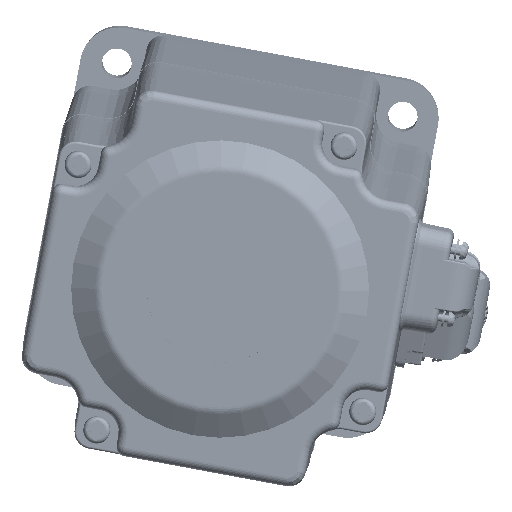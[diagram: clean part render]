
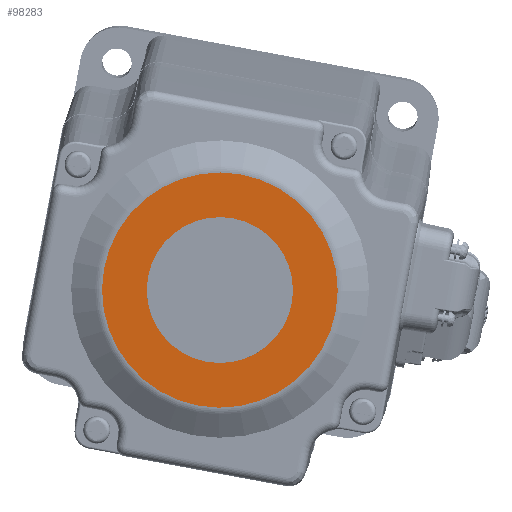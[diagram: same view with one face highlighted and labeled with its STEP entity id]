
A CAD part, top view. The second image highlights one B-rep face of the part: STEP entity #98283.
In plain terms, the highlighted planar face has unit normal (-0.015, -0.066, 0.998).
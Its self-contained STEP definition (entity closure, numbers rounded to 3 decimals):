
#31209=CARTESIAN_POINT('',(35.98,10.496,163.879));
#31210=DIRECTION('',(0.015,0.066,-0.998));
#31211=DIRECTION('',(-0.182,-0.981,-0.067));
#31212=AXIS2_PLACEMENT_3D('',#31209,#31210,#31211);
#31214=CARTESIAN_POINT('',(35.98,10.496,163.879));
#31215=DIRECTION('',(0.015,0.066,-0.998));
#31216=DIRECTION('',(0.182,0.981,0.067));
#31217=AXIS2_PLACEMENT_3D('',#31214,#31215,#31216);
#31219=CARTESIAN_POINT('',(35.98,10.496,163.879));
#31220=DIRECTION('',(-0.015,-0.066,0.998));
#31221=DIRECTION('',(-0.182,-0.981,-0.067));
#31222=AXIS2_PLACEMENT_3D('',#31219,#31220,#31221);
#31224=CARTESIAN_POINT('',(35.98,10.496,163.879));
#31225=DIRECTION('',(-0.015,-0.066,0.998));
#31226=DIRECTION('',(0.182,0.981,0.067));
#31227=AXIS2_PLACEMENT_3D('',#31224,#31225,#31226);
#50403=CARTESIAN_POINT('',(31.29,-14.803,
162.143));
#50404=CARTESIAN_POINT('',(40.67,35.795,165.616));
#50405=VERTEX_POINT('',#50403);
#50406=VERTEX_POINT('',#50404);
#50407=CARTESIAN_POINT('',(33.07,-5.2,
162.802));
#50408=CARTESIAN_POINT('',(38.889,26.192,164.957));
#50409=VERTEX_POINT('',#50407);
#50410=VERTEX_POINT('',#50408);
#98267=CARTESIAN_POINT('',(35.98,10.496,163.879));
#98268=DIRECTION('',(-0.015,-0.066,0.998));
#98269=DIRECTION('',(-0.182,-0.981,-0.067));
#98270=AXIS2_PLACEMENT_3D('',#98267,#98268,#98269);
#98271=PLANE('',#98270);
#98272=ORIENTED_EDGE('',*,*,#98257,.T.);
#98274=ORIENTED_EDGE('',*,*,#98273,.T.);
#98275=EDGE_LOOP('',(#98272,#98274));
#98276=FACE_OUTER_BOUND('',#98275,.F.);
#98278=ORIENTED_EDGE('',*,*,#98277,.T.);
#98280=ORIENTED_EDGE('',*,*,#98279,.T.);
#98281=EDGE_LOOP('',(#98278,#98280));
#98282=FACE_BOUND('',#98281,.F.);
#31213=CIRCLE('',#31212,25.789);
#31218=CIRCLE('',#31217,25.789);
#31223=CIRCLE('',#31222,16.);
#31228=CIRCLE('',#31227,16.);
#98257=EDGE_CURVE('',#50405,#50406,#31213,.T.);
#98273=EDGE_CURVE('',#50406,#50405,#31218,.T.);
#98277=EDGE_CURVE('',#50409,#50410,#31223,.T.);
#98279=EDGE_CURVE('',#50410,#50409,#31228,.T.);
#98283=ADVANCED_FACE('',(#98276,#98282),#98271,.T.);
